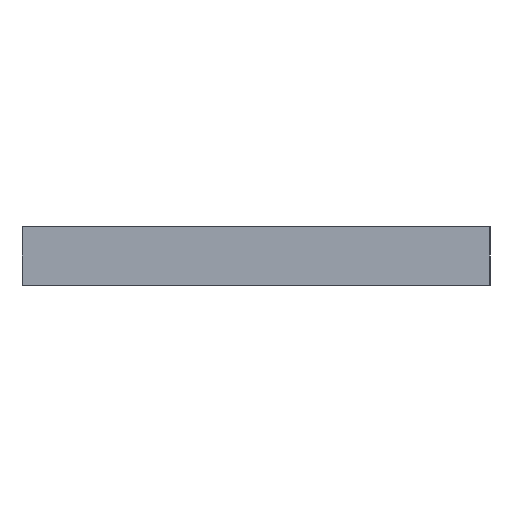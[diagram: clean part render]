
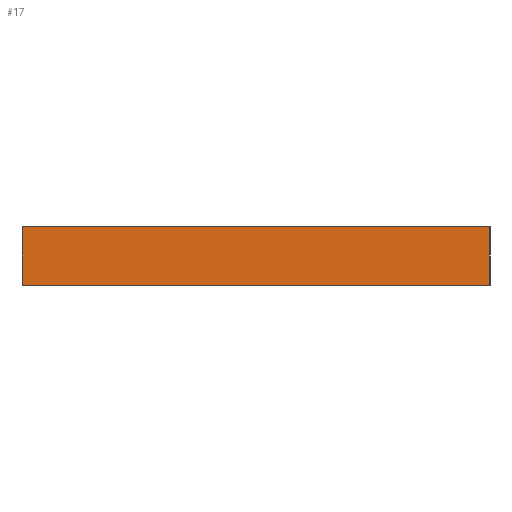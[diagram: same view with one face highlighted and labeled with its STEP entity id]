
A CAD part, left-side view. The second image highlights one B-rep face of the part: STEP entity #17.
In plain terms, the highlighted planar face has unit normal (-1, 0, 0).
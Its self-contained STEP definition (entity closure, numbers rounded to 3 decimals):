
#17 = ADVANCED_FACE('',(#18),#32,.F.);
#18 = FACE_BOUND('',#19,.F.);
#19 = EDGE_LOOP('',(#20,#55,#83,#111));
#20 = ORIENTED_EDGE('',*,*,#21,.F.);
#21 = EDGE_CURVE('',#22,#24,#26,.T.);
#22 = VERTEX_POINT('',#23);
#23 = CARTESIAN_POINT('',(-42.,-24.,0.));
#24 = VERTEX_POINT('',#25);
#25 = CARTESIAN_POINT('',(-42.,-24.,6.));
#26 = SURFACE_CURVE('',#27,(#31,#43),.PCURVE_S1.);
#27 = LINE('',#28,#29);
#28 = CARTESIAN_POINT('',(-42.,-24.,0.));
#29 = VECTOR('',#30,1.);
#30 = DIRECTION('',(0.,0.,1.));
#31 = PCURVE('',#32,#37);
#32 = PLANE('',#33);
#33 = AXIS2_PLACEMENT_3D('',#34,#35,#36);
#34 = CARTESIAN_POINT('',(-42.,-24.,0.));
#35 = DIRECTION('',(1.,0.,0.));
#36 = DIRECTION('',(0.,0.,1.));
#37 = DEFINITIONAL_REPRESENTATION('',(#38),#42);
#38 = LINE('',#39,#40);
#39 = CARTESIAN_POINT('',(0.,0.));
#40 = VECTOR('',#41,1.);
#41 = DIRECTION('',(1.,0.));
#42 = ( GEOMETRIC_REPRESENTATION_CONTEXT(2) 
PARAMETRIC_REPRESENTATION_CONTEXT() REPRESENTATION_CONTEXT('2D SPACE',''
  ) );
#43 = PCURVE('',#44,#49);
#44 = PLANE('',#45);
#45 = AXIS2_PLACEMENT_3D('',#46,#47,#48);
#46 = CARTESIAN_POINT('',(-42.,-24.,0.));
#47 = DIRECTION('',(0.,1.,0.));
#48 = DIRECTION('',(0.,0.,1.));
#49 = DEFINITIONAL_REPRESENTATION('',(#50),#54);
#50 = LINE('',#51,#52);
#51 = CARTESIAN_POINT('',(0.,0.));
#52 = VECTOR('',#53,1.);
#53 = DIRECTION('',(1.,0.));
#54 = ( GEOMETRIC_REPRESENTATION_CONTEXT(2) 
PARAMETRIC_REPRESENTATION_CONTEXT() REPRESENTATION_CONTEXT('2D SPACE',''
  ) );
#55 = ORIENTED_EDGE('',*,*,#56,.T.);
#56 = EDGE_CURVE('',#22,#57,#59,.T.);
#57 = VERTEX_POINT('',#58);
#58 = CARTESIAN_POINT('',(-42.,24.,0.));
#59 = SURFACE_CURVE('',#60,(#64,#71),.PCURVE_S1.);
#60 = LINE('',#61,#62);
#61 = CARTESIAN_POINT('',(-42.,-24.,0.));
#62 = VECTOR('',#63,1.);
#63 = DIRECTION('',(0.,1.,0.));
#64 = PCURVE('',#32,#65);
#65 = DEFINITIONAL_REPRESENTATION('',(#66),#70);
#66 = LINE('',#67,#68);
#67 = CARTESIAN_POINT('',(0.,0.));
#68 = VECTOR('',#69,1.);
#69 = DIRECTION('',(0.,-1.));
#70 = ( GEOMETRIC_REPRESENTATION_CONTEXT(2) 
PARAMETRIC_REPRESENTATION_CONTEXT() REPRESENTATION_CONTEXT('2D SPACE',''
  ) );
#71 = PCURVE('',#72,#77);
#72 = PLANE('',#73);
#73 = AXIS2_PLACEMENT_3D('',#74,#75,#76);
#74 = CARTESIAN_POINT('',(-42.,-24.,0.));
#75 = DIRECTION('',(0.,0.,1.));
#76 = DIRECTION('',(1.,0.,0.));
#77 = DEFINITIONAL_REPRESENTATION('',(#78),#82);
#78 = LINE('',#79,#80);
#79 = CARTESIAN_POINT('',(0.,0.));
#80 = VECTOR('',#81,1.);
#81 = DIRECTION('',(0.,1.));
#82 = ( GEOMETRIC_REPRESENTATION_CONTEXT(2) 
PARAMETRIC_REPRESENTATION_CONTEXT() REPRESENTATION_CONTEXT('2D SPACE',''
  ) );
#83 = ORIENTED_EDGE('',*,*,#84,.T.);
#84 = EDGE_CURVE('',#57,#85,#87,.T.);
#85 = VERTEX_POINT('',#86);
#86 = CARTESIAN_POINT('',(-42.,24.,6.));
#87 = SURFACE_CURVE('',#88,(#92,#99),.PCURVE_S1.);
#88 = LINE('',#89,#90);
#89 = CARTESIAN_POINT('',(-42.,24.,0.));
#90 = VECTOR('',#91,1.);
#91 = DIRECTION('',(0.,0.,1.));
#92 = PCURVE('',#32,#93);
#93 = DEFINITIONAL_REPRESENTATION('',(#94),#98);
#94 = LINE('',#95,#96);
#95 = CARTESIAN_POINT('',(0.,-48.));
#96 = VECTOR('',#97,1.);
#97 = DIRECTION('',(1.,0.));
#98 = ( GEOMETRIC_REPRESENTATION_CONTEXT(2) 
PARAMETRIC_REPRESENTATION_CONTEXT() REPRESENTATION_CONTEXT('2D SPACE',''
  ) );
#99 = PCURVE('',#100,#105);
#100 = PLANE('',#101);
#101 = AXIS2_PLACEMENT_3D('',#102,#103,#104);
#102 = CARTESIAN_POINT('',(-42.,24.,0.));
#103 = DIRECTION('',(0.,1.,0.));
#104 = DIRECTION('',(0.,0.,1.));
#105 = DEFINITIONAL_REPRESENTATION('',(#106),#110);
#106 = LINE('',#107,#108);
#107 = CARTESIAN_POINT('',(0.,0.));
#108 = VECTOR('',#109,1.);
#109 = DIRECTION('',(1.,0.));
#110 = ( GEOMETRIC_REPRESENTATION_CONTEXT(2) 
PARAMETRIC_REPRESENTATION_CONTEXT() REPRESENTATION_CONTEXT('2D SPACE',''
  ) );
#111 = ORIENTED_EDGE('',*,*,#112,.F.);
#112 = EDGE_CURVE('',#24,#85,#113,.T.);
#113 = SURFACE_CURVE('',#114,(#118,#125),.PCURVE_S1.);
#114 = LINE('',#115,#116);
#115 = CARTESIAN_POINT('',(-42.,-24.,6.));
#116 = VECTOR('',#117,1.);
#117 = DIRECTION('',(0.,1.,0.));
#118 = PCURVE('',#32,#119);
#119 = DEFINITIONAL_REPRESENTATION('',(#120),#124);
#120 = LINE('',#121,#122);
#121 = CARTESIAN_POINT('',(6.,0.));
#122 = VECTOR('',#123,1.);
#123 = DIRECTION('',(0.,-1.));
#124 = ( GEOMETRIC_REPRESENTATION_CONTEXT(2) 
PARAMETRIC_REPRESENTATION_CONTEXT() REPRESENTATION_CONTEXT('2D SPACE',''
  ) );
#125 = PCURVE('',#126,#131);
#126 = PLANE('',#127);
#127 = AXIS2_PLACEMENT_3D('',#128,#129,#130);
#128 = CARTESIAN_POINT('',(-42.,-24.,6.));
#129 = DIRECTION('',(0.,0.,1.));
#130 = DIRECTION('',(1.,0.,0.));
#131 = DEFINITIONAL_REPRESENTATION('',(#132),#136);
#132 = LINE('',#133,#134);
#133 = CARTESIAN_POINT('',(0.,0.));
#134 = VECTOR('',#135,1.);
#135 = DIRECTION('',(0.,1.));
#136 = ( GEOMETRIC_REPRESENTATION_CONTEXT(2) 
PARAMETRIC_REPRESENTATION_CONTEXT() REPRESENTATION_CONTEXT('2D SPACE',''
  ) );
